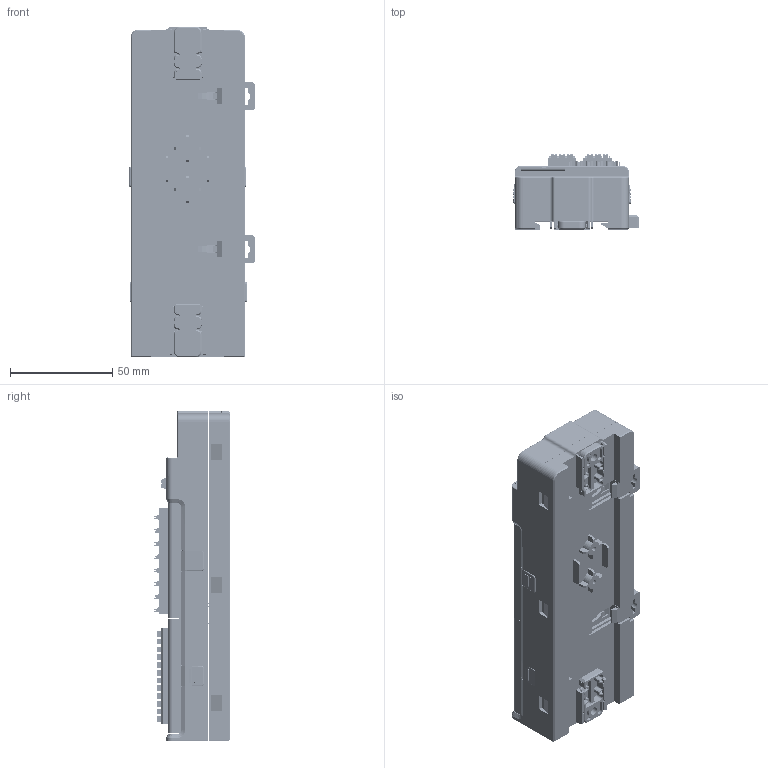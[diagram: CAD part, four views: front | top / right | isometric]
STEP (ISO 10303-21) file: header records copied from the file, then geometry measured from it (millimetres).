
FILE_DESCRIPTION(/* description */ (''),/* implementation_level */ '2;1');
FILE_NAME(/* name */ 'RS-三位一体+单排欧式端子.stp',/* time_stamp */ '2024-09-11T16:54:44+08:00',/* author */ (''),/* organization */ (''),/* preprocessor_version */ 'ST-DEVELOPER v16',/* originating_system */ 'SIEMENS PLM Software NX 10.0',/* authorisation */ '');
FILE_SCHEMA (('AP203_CONFIGURATION_CONTROLLED_3D_DESIGN_OF_MECHANICAL_PARTS_AND_ASSEMBLIES_MIM_LF { 1 0 10303 403 2 1 2}'));
Products named in the file (1): chao493C718Bml99
Bounding box: 61.81 x 36.78 x 162 mm (x, y, z)
Volume: 236793.5 mm3; surface area: 121902.8 mm2
Topology: 82 solids, 229 shells, 16742 faces, 45581 edges, 29769 vertices
Faces by surface type: plane 11651, cylinder 3771, cone 543, bspline 527, torus 140, extrusion 84, sphere 22, revolution 4
Full cylindrical faces by diameter (mm): 0.6 x4, 0.76 x6, 0.8 x13, 0.9 x1, 0.92 x18, 1 x5, 1.1 x2, 1.2 x25, 1.24 x16, 1.26 x3, 1.36 x24, 1.5 x5, 1.64 x20, 1.7 x4, 2.35 x2, 3.2 x3, 3.3 x3, 4.2 x2, 6.05 x3, 6.15 x3
Entity records: 542729 total; most frequent: CARTESIAN_POINT 122420, ORIENTED_EDGE 90022, DIRECTION 82758, EDGE_CURVE 45091, VECTOR 34098, LINE 34014, VERTEX_POINT 29699, AXIS2_PLACEMENT_3D 24328
